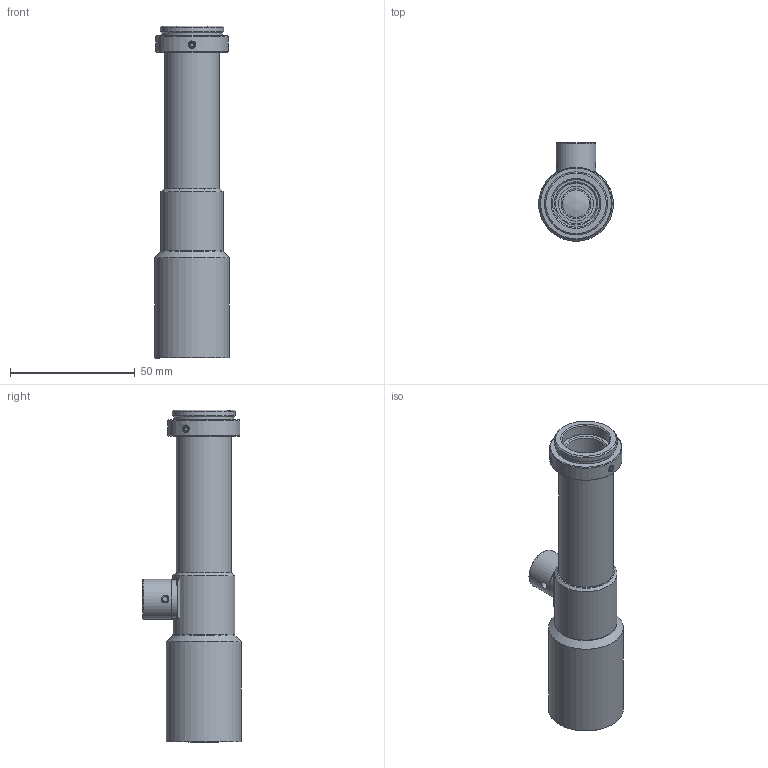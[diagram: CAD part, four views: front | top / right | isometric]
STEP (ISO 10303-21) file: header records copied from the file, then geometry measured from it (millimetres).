
FILE_DESCRIPTION(('STEP AP214'),'1');
FILE_NAME('RTK-1.5F-M110.stp','2026-08-03T02:33:51',(' '),(' '),'Spatial InterOp 3D',' ',' ');
FILE_SCHEMA(('AUTOMOTIVE_DESIGN { 1 0 10303 214 1 1 1 1 }'));
Length unit declared in the file: metre
Products named in the file (2): RTK-1.5F-M110; Component1
Assembly tree (1 placements, depth 2):
  RTK-1.5F-M110
    Component1
Bounding box: 30 x 39.5 x 133.2 mm (x, y, z)
Volume: 34760 mm3; surface area: 24260.1 mm2
Topology: 1 solids, 11 shells, 327 faces, 773 edges, 502 vertices
Faces by surface type: plane 163, cone 84, cylinder 63, torus 8, sphere 6, bspline 3
Full cylindrical faces by diameter (mm): 1.7 x8, 1.8 x4, 3 x3, 6.5 x1, 8 x1, 9 x1, 11 x1, 12 x1, 14 x1, 14.2 x1, 14.8 x1, 15.5 x1, 16 x1, 16.4 x1, 17.2 x1, 17.4 x2, 18.2 x1, 19 x2, 19.02 x1, 20.2 x1, 21 x1, 21.8 x1, 22 x5, 23 x1, 24.12 x1, 24.5 x2, 25 x1, 25.32 x1, 27 x1, 27.8 x1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
Entity records: 12040 total; most frequent: CARTESIAN_POINT 2395, DIRECTION 1488, ORIENTED_EDGE 1252, AXIS2_PLACEMENT_3D 628, EDGE_CURVE 626, EDGE_LOOP 490, VERTEX_POINT 464, FACE_OUTER_BOUND 389
